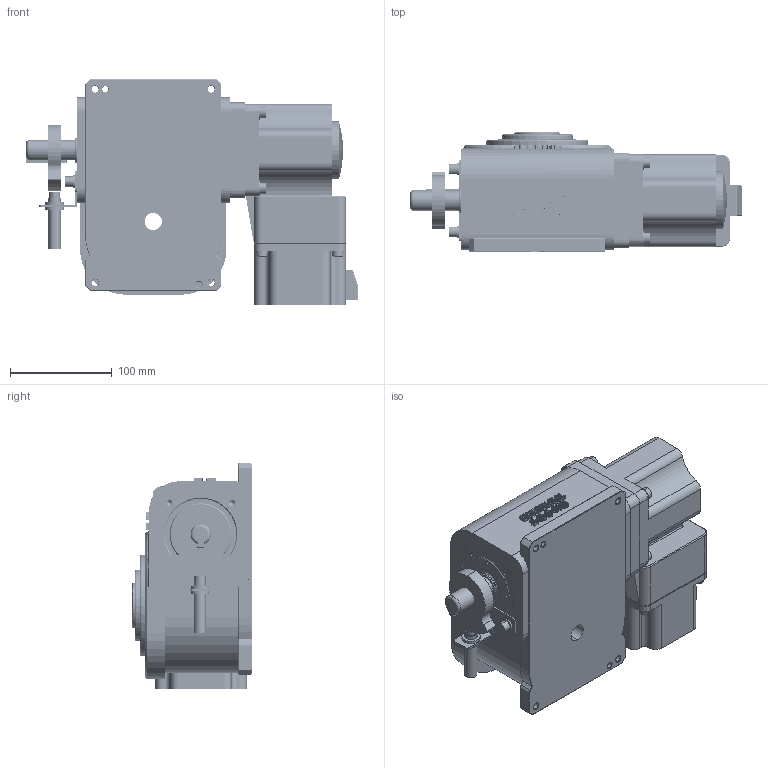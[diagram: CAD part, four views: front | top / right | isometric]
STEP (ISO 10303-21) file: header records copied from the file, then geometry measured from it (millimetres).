
FILE_DESCRIPTION (( 'STEP AP214' ), '1' );
FILE_NAME ('ER-RU70DA英锐凸轮分割器固定盘壳体法兰面销孔3D水平直联式右侧ZDWS(电话15062628977)AADD.STEP', '2022-07-19T06:40:24', ( '微软用户' ), ( '微软中国' ), 'SwSTEP 2.0', 'SolidWorks 2017', '' );
FILE_SCHEMA (( 'AUTOMOTIVE_DESIGN' ));
Length unit declared in the file: millimetre
Products named in the file (1): ER-RU70DA英锐凸轮分割器固定盘壳体法兰面销孔3D水平直联式右侧ZDWS(电话15062628977)AADD
Bounding box: 326.25 x 117 x 222 mm (x, y, z)
Volume: 4291630.5 mm3; surface area: 289133.2 mm2
Topology: 3 solids, 7 shells, 2025 faces, 5244 edges, 3374 vertices
Faces by surface type: cylinder 855, plane 595, bspline 357, cone 192, torus 22, sphere 4
Entity records: 126057 total; most frequent: CARTESIAN_POINT 80898, ORIENTED_EDGE 10388, DIRECTION 7462, EDGE_CURVE 5194, VERTEX_POINT 3374, AXIS2_PLACEMENT_3D 2516, VECTOR 2430, LINE 2430
